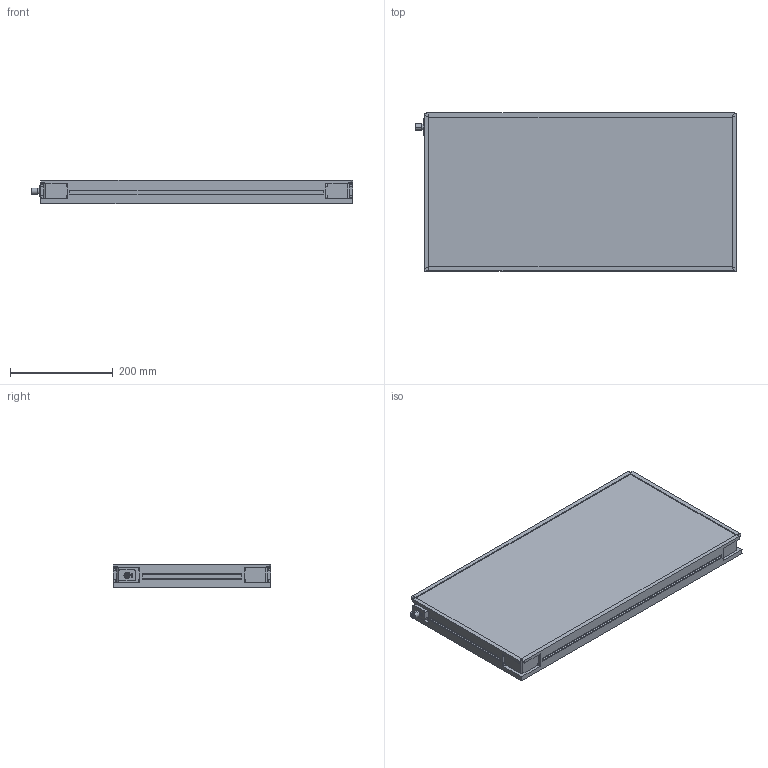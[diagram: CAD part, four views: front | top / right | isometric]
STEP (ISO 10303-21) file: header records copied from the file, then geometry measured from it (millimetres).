
FILE_DESCRIPTION (( 'STEP AP214' ), '1' );
FILE_NAME ('MBACK-xxxx-xxx-M1_CLIENT300x600.STEP', '2022-03-31T16:03:09', ( '' ), ( '' ), 'SwSTEP 2.0', 'SolidWorks 2020', '' );
FILE_SCHEMA (( 'AUTOMOTIVE_DESIGN' ));
Length unit declared in the file: millimetre
Products named in the file (1): MBACK-xxxx-xxx-M1_CLIENT300x600
Bounding box: 625.9 x 308 x 45.5 mm (x, y, z)
Volume: 7741610.1 mm3; surface area: 496002 mm2
Topology: 1 solids, 1 shells, 439 faces, 1138 edges, 756 vertices
Faces by surface type: plane 248, cylinder 103, bspline 80, cone 8
Entity records: 17156 total; most frequent: CARTESIAN_POINT 6686, ORIENTED_EDGE 2276, DIRECTION 1920, EDGE_CURVE 1138, VERTEX_POINT 756, LINE 756, VECTOR 756, AXIS2_PLACEMENT_3D 582
